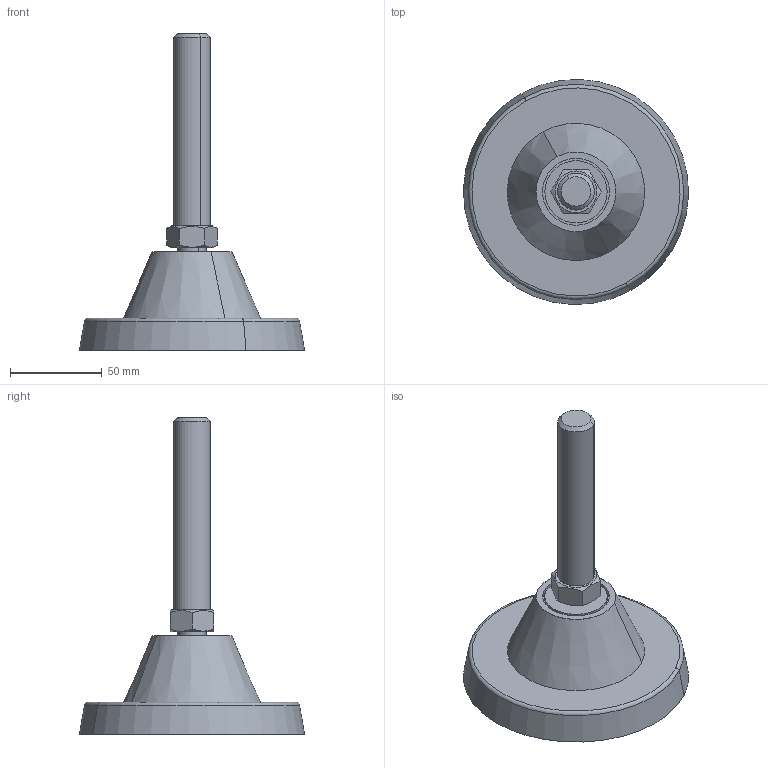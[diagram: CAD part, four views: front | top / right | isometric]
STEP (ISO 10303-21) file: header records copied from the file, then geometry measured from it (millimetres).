
FILE_DESCRIPTION(('CATIA V5 STEP Exchange'),'2;1');
FILE_NAME('C:\Users\ALI OZGUN\Desktop\alhan\ARTICULATED_FEET-PABUCLAR\502122015.stp','2017-09-08T06:28:57+00:00',('none'),('none'),'CATIA Version 5 Release 21 GA (IN-10)','CATIA V5 STEP AP203','none');
FILE_SCHEMA(('CONFIG_CONTROL_DESIGN'));
Length unit declared in the file: millimetre
Products named in the file (1): 502122015
Bounding box: 122.97 x 122.97 x 173 mm (x, y, z)
Volume: 201950.8 mm3; surface area: 71030.7 mm2
Topology: 3 solids, 3 shells, 127 faces, 330 edges, 216 vertices
Faces by surface type: plane 61, cylinder 32, cone 30, torus 2, sphere 2
Entity records: 3851 total; most frequent: CARTESIAN_POINT 1199, ORIENTED_EDGE 660, DIRECTION 330, EDGE_CURVE 330, VERTEX_POINT 216, AXIS2_PLACEMENT_3D 168, EDGE_LOOP 138, ADVANCED_FACE 127
